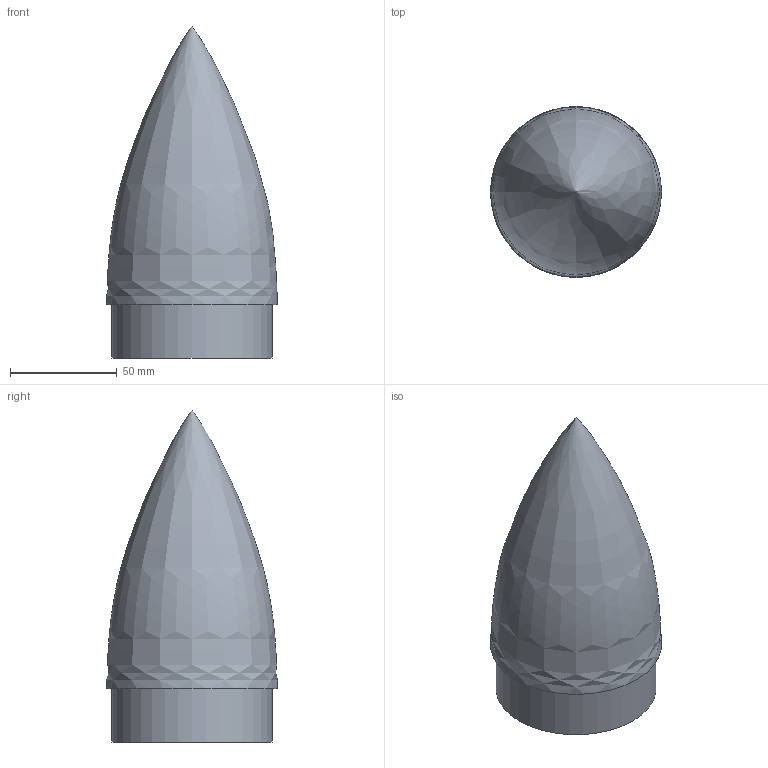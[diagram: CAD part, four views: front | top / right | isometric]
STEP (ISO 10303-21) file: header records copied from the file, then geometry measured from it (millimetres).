
FILE_DESCRIPTION(/* description */ ('STEP AP242 Edition 2','CAx-IF Rec.Pracs.---Representation and Presentation of Product Manufacturing Information (PMI)---4.0---2014-10-13','CAx-IF Rec.Pracs.---3D Tessellated Geometry---0.4---2014-09-14','2;1','CAx-IF Rec.Pracs.---User Defined Attributes---1.5---2016-08-15'),/* implementation_level */ '2;1');
FILE_NAME(/* name */ '695afeb8d13f1a0233889387',/* time_stamp */ '2026-01-04T23:58:48Z',/* author */ (''),/* organization */ (''),/* preprocessor_version */ 'ST-DEVELOPER v20',/* originating_system */ 'ONSHAPE BY PTC INC, 1.208',/* authorisation */ ' ');
FILE_SCHEMA (('AP242_MANAGED_MODEL_BASED_3D_ENGINEERING_MIM_LF { 1 0 10303 442 3 1 4 }'));
Length unit declared in the file: metre
Products named in the file (1): Part 1
Bounding box: 80.1 x 80.1 x 155.41 mm (x, y, z)
Volume: 43156.5 mm3; surface area: 57893.9 mm2
Topology: 1 solids, 1 shells, 7 faces, 12 edges, 8 vertices
Faces by surface type: plane 3, bspline 2, cylinder 2
Full cylindrical faces by diameter (mm): 72 x1, 75 x1
Entity records: 745 total; most frequent: CARTESIAN_POINT 609, DIRECTION 24, FACE_BOUND 14, ORIENTED_EDGE 12, EDGE_LOOP 12, AXIS2_PLACEMENT_3D 12, VERTEX_POINT 8, ADVANCED_FACE 7
